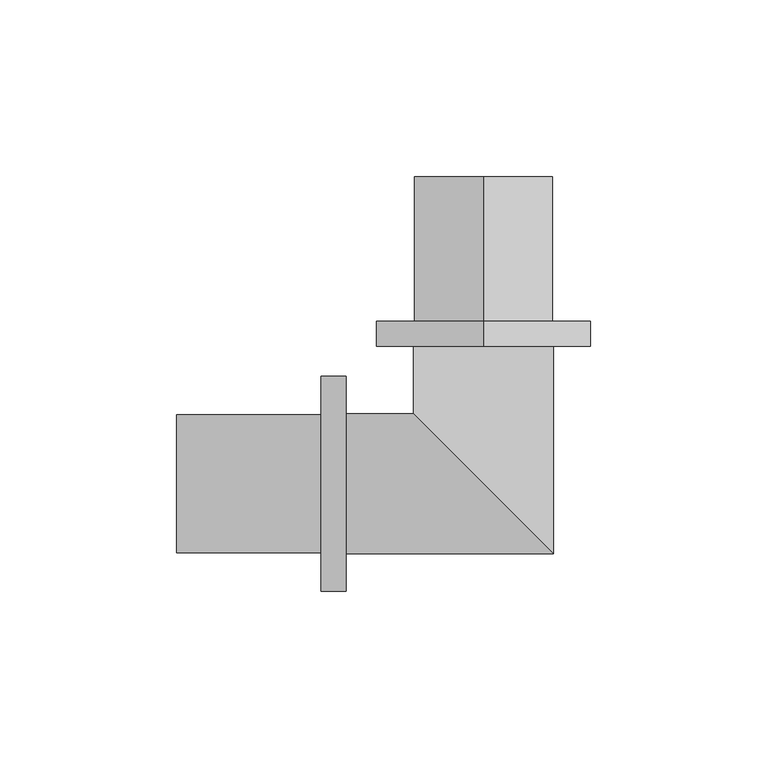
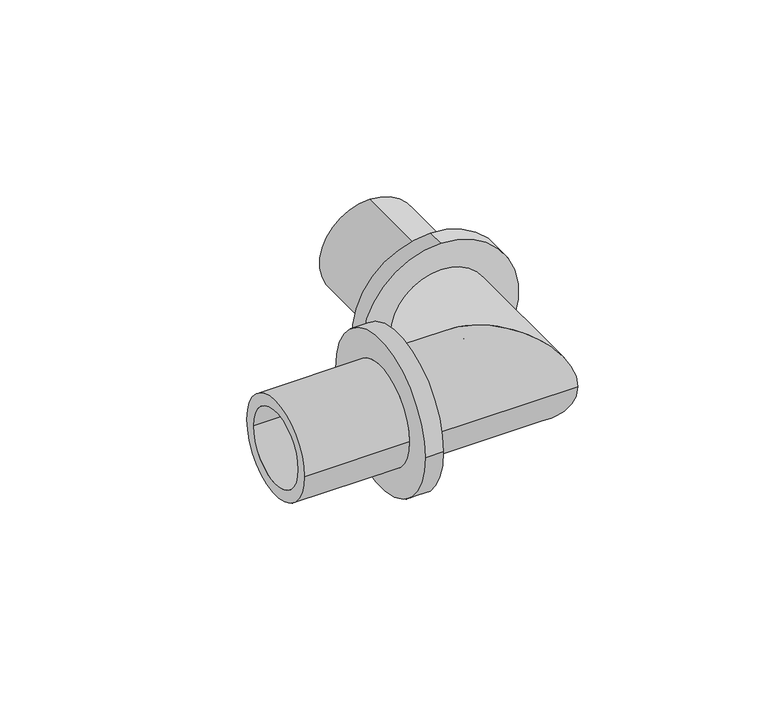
"""IFC4 building model written with IfcOpenShell, lengths in millimetres: pipe fitting geometry, RAUTITAN_Corner_LX : RTI LX C DE."""

from ifc_helpers import new_model, si_unit, frame, origin, place, context, project, spatial, polyline, circle_curve, ellipse_curve, source, transform, mapped, element, save
from ifc_brep_helpers import plane_surface, cylinder_surface, revolved_surface, advanced_brep


def pipe_fitting_91b0a5e7(model_context):
    return source(origin(), model_context, "Body", "AdvancedBrep", [
        advanced_brep(
        [(0.0, 46.0, 30.5), (0.0, 46.0, -30.5), (0.0, 39.0, -30.5), (0.0, 39.0, 30.5), (0.0, 87.0, 19.6), (0.0, 87.0, -19.6), (0.0, 46.0, -19.6), (0.0, 46.0, 19.6), (0.0, 39.0, 15.0), (0.0, 39.0, -15.0), (0.0, 87.0, -15.0), (0.0, 87.0, 15.0)],
        [
            (0, 1, circle_curve(frame((0.0, 46.0, 0.0), z_axis=(0.0, -1.0, 0.0), x_axis=(0.0, 0.0, -1.0)), 30.5)),
            (1, 2),
            (2, 3, circle_curve(frame((0.0, 39.0, 0.0), z_axis=(0.0, 1.0, 0.0), x_axis=(0.0, 0.0, -1.0)), 30.5)),
            (3, 0),
            (4, 5, circle_curve(frame((0.0, 87.0, 0.0), z_axis=(0.0, -1.0, 0.0), x_axis=(0.0, 0.0, -1.0)), 19.6)),
            (5, 6),
            (6, 7, circle_curve(frame((0.0, 46.0, 0.0), z_axis=(0.0, 1.0, 0.0), x_axis=(0.0, 0.0, -1.0)), 19.6)),
            (7, 4),
            (8, 9, circle_curve(frame((0.0, 39.0, 0.0), z_axis=(0.0, -1.0, 0.0), x_axis=(0.0, 0.0, -1.0)), 15.0)),
            (9, 10),
            (10, 11, circle_curve(frame((0.0, 87.0, 0.0), z_axis=(0.0, 1.0, 0.0), x_axis=(0.0, 0.0, -1.0)), 15.0)),
            (11, 8),
            (1, 0, circle_curve(frame((0.0, 46.0, 0.0), z_axis=(0.0, -1.0, 0.0), x_axis=(0.0, 0.0, 1.0)), 30.5)),
            (3, 2, circle_curve(frame((0.0, 39.0, 0.0), z_axis=(0.0, 1.0, 0.0), x_axis=(0.0, 0.0, 1.0)), 30.5)),
            (6, 7, circle_curve(frame((0.0, 46.0, 0.0), z_axis=(0.0, -1.0, 0.0), x_axis=(0.0, 0.0, 1.0)), 19.6)),
            (5, 4, circle_curve(frame((0.0, 87.0, 0.0), z_axis=(0.0, -1.0, 0.0), x_axis=(0.0, 0.0, 1.0)), 19.6)),
            (10, 11, circle_curve(frame((0.0, 87.0, 0.0), z_axis=(0.0, -1.0, 0.0), x_axis=(0.0, 0.0, 1.0)), 15.0)),
            (9, 8, circle_curve(frame((0.0, 39.0, 0.0), z_axis=(0.0, -1.0, 0.0), x_axis=(0.0, 0.0, 1.0)), 15.0)),
        ],
        [
            cylinder_surface(frame((0.0, 39.0, 0.0), z_axis=(0.0, 1.0, 0.0), x_axis=(0.0, 0.0, -1.0)), 30.5),
            cylinder_surface(frame((0.0, 39.0, 0.0), z_axis=(0.0, 1.0, 0.0), x_axis=(0.0, 0.0, -1.0)), 19.6),
            revolved_surface(polyline([(0.0, 87.0, -15.0), (0.0, 39.0, -15.0)]), (0.0, 39.0, 0.0), (0.0, 1.0, 0.0)),
            cylinder_surface(frame((0.0, 39.0, 0.0), z_axis=(0.0, 1.0, 0.0), x_axis=(0.0, 0.0, 1.0)), 30.5),
            plane_surface(frame((0.0, 46.0, 0.0), z_axis=(0.0, 1.0, 0.0), x_axis=(0.0, 0.0, 1.0))),
            cylinder_surface(frame((0.0, 39.0, 0.0), z_axis=(0.0, 1.0, 0.0), x_axis=(0.0, 0.0, 1.0)), 19.6),
            plane_surface(frame((0.0, 87.0, 0.0), z_axis=(0.0, 1.0, 0.0), x_axis=(0.0, 0.0, 1.0))),
            revolved_surface(polyline([(0.0, 87.0, 15.0), (0.0, 39.0, 15.0)]), (0.0, 39.0, 0.0), (0.0, 1.0, 0.0)),
            plane_surface(frame((0.0, 39.0, 0.0), z_axis=(0.0, -1.0, 0.0), x_axis=(0.0, 0.0, 1.0))),
        ],
        [
            (0, [[1, 2, 3, 4]]),
            (1, [[5, 6, 7, 8]]),
            (2, [[9, 10, 11, 12]]),
            (3, [[13, -4, 14, -2]]),
            (4, [[-13, -1], [15, -7]]),
            (5, [[16, -8, -15, -6]]),
            (6, [[-16, -5], [17, -11]]),
            (7, [[18, -12, -17, -10]]),
            (8, [[-14, -3], [-18, -9]]),
        ],
    ),
        advanced_brep(
        [(-46.0, -30.5, 0.0), (-46.0, 30.5, 0.0), (-39.0, 30.5, 0.0), (-39.0, -30.5, 0.0), (-87.0, -19.6, 0.0), (-87.0, 19.6, 0.0), (-46.0, 19.6, 0.0), (-46.0, -19.6, 0.0), (-39.0, -15.0, 0.0), (-39.0, 15.0, 0.0), (-87.0, 15.0, 0.0), (-87.0, -15.0, 0.0)],
        [
            (0, 1, circle_curve(frame((-46.0, 0.0, 0.0), z_axis=(1.0, 0.0, 0.0), x_axis=(0.0, 1.0, 0.0)), 30.5)),
            (1, 2),
            (2, 3, circle_curve(frame((-39.0, 0.0, 0.0), z_axis=(-1.0, 0.0, 0.0), x_axis=(0.0, 1.0, 0.0)), 30.5)),
            (3, 0),
            (4, 5, circle_curve(frame((-87.0, 0.0, 0.0), z_axis=(1.0, 0.0, 0.0), x_axis=(0.0, 1.0, 0.0)), 19.6)),
            (5, 6),
            (6, 7, circle_curve(frame((-46.0, 0.0, 0.0), z_axis=(-1.0, 0.0, 0.0), x_axis=(0.0, 1.0, 0.0)), 19.6)),
            (7, 4),
            (8, 9, circle_curve(frame((-39.0, 0.0, 0.0), z_axis=(1.0, 0.0, 0.0), x_axis=(0.0, 1.0, 0.0)), 15.0)),
            (9, 10),
            (10, 11, circle_curve(frame((-87.0, 0.0, 0.0), z_axis=(-1.0, 0.0, 0.0), x_axis=(0.0, 1.0, 0.0)), 15.0)),
            (11, 8),
            (1, 0, circle_curve(frame((-46.0, 0.0, 0.0), z_axis=(1.0, 0.0, 0.0), x_axis=(0.0, -1.0, 0.0)), 30.5)),
            (3, 2, circle_curve(frame((-39.0, 0.0, 0.0), z_axis=(-1.0, 0.0, 0.0), x_axis=(0.0, -1.0, 0.0)), 30.5)),
            (6, 7, circle_curve(frame((-46.0, 0.0, 0.0), z_axis=(1.0, 0.0, 0.0), x_axis=(0.0, -1.0, 0.0)), 19.6)),
            (5, 4, circle_curve(frame((-87.0, 0.0, 0.0), z_axis=(1.0, 0.0, 0.0), x_axis=(0.0, -1.0, 0.0)), 19.6)),
            (10, 11, circle_curve(frame((-87.0, 0.0, 0.0), z_axis=(1.0, 0.0, 0.0), x_axis=(0.0, -1.0, 0.0)), 15.0)),
            (9, 8, circle_curve(frame((-39.0, 0.0, 0.0), z_axis=(1.0, 0.0, 0.0), x_axis=(0.0, -1.0, 0.0)), 15.0)),
        ],
        [
            cylinder_surface(frame((-39.0, 0.0, 0.0), z_axis=(-1.0, 0.0, 0.0), x_axis=(0.0, 1.0, 0.0)), 30.5),
            cylinder_surface(frame((-39.0, 0.0, 0.0), z_axis=(-1.0, 0.0, 0.0), x_axis=(0.0, 1.0, 0.0)), 19.6),
            revolved_surface(polyline([(-87.0, 15.0, 0.0), (-39.0, 15.0, 0.0)]), (-39.0, 0.0, 0.0), (-1.0, 0.0, 0.0)),
            cylinder_surface(frame((-39.0, 0.0, 0.0), z_axis=(-1.0, 0.0, 0.0), x_axis=(0.0, -1.0, 0.0)), 30.5),
            plane_surface(frame((-46.0, 0.0, 0.0), z_axis=(-1.0, 0.0, 0.0), x_axis=(0.0, -1.0, 0.0))),
            cylinder_surface(frame((-39.0, 0.0, 0.0), z_axis=(-1.0, 0.0, 0.0), x_axis=(0.0, -1.0, 0.0)), 19.6),
            plane_surface(frame((-87.0, 0.0, 0.0), z_axis=(-1.0, 0.0, 0.0), x_axis=(0.0, -1.0, 0.0))),
            revolved_surface(polyline([(-87.0, -15.0, 0.0), (-39.0, -15.0, 0.0)]), (-39.0, 0.0, 0.0), (-1.0, 0.0, 0.0)),
            plane_surface(frame((-39.0, 0.0, 0.0), z_axis=(1.0, 0.0, 0.0), x_axis=(0.0, -1.0, 0.0))),
        ],
        [
            (0, [[1, 2, 3, 4]]),
            (1, [[5, 6, 7, 8]]),
            (2, [[9, 10, 11, 12]]),
            (3, [[13, -4, 14, -2]]),
            (4, [[-13, -1], [15, -7]]),
            (5, [[16, -8, -15, -6]]),
            (6, [[-16, -5], [17, -11]]),
            (7, [[18, -12, -17, -10]]),
            (8, [[-14, -3], [-18, -9]]),
        ],
    ),
        advanced_brep(
        [(-39.0, -19.8, 0.0), (-39.0, 19.8, 0.0), (-39.0, -15.0, 0.0), (-39.0, 15.0, 0.0), (-15.0, 15.0, 0.0), (15.0, -15.0, 0.0), (19.8, 39.0, 0.0), (-19.8, 39.0, 0.0), (15.0, 39.0, 0.0), (-15.0, 39.0, 0.0), (19.8, -19.8, 0.0), (-19.8, 19.8, 0.0)],
        [
            (0, 1, circle_curve(frame((-39.0, 0.0, 0.0), z_axis=(-1.0, 0.0, 0.0), x_axis=(0.0, 1.0, 0.0)), 19.8)),
            (1, 0, circle_curve(frame((-39.0, 0.0, 0.0), z_axis=(-1.0, 0.0, 0.0), x_axis=(0.0, 1.0, 0.0)), 19.8)),
            (2, 3, circle_curve(frame((-39.0, 0.0, 0.0), z_axis=(1.0, 0.0, 0.0), x_axis=(0.0, 1.0, 0.0)), 15.0)),
            (3, 2, circle_curve(frame((-39.0, 0.0, 0.0), z_axis=(1.0, 0.0, 0.0), x_axis=(0.0, 1.0, 0.0)), 15.0)),
            (3, 4),
            (4, 5, ellipse_curve(frame((0.0, 0.0, 0.0), z_axis=(0.707106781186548, 0.7071067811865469, 0.0), x_axis=(0.7071067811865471, -0.7071067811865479, 0.0)), 21.2132034, 15.0)),
            (5, 2),
            (5, 4, ellipse_curve(frame((0.0, 0.0, 0.0), z_axis=(0.707106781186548, 0.7071067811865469, 0.0), x_axis=(0.7071067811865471, -0.7071067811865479, 0.0)), 21.2132034, 15.0)),
            (6, 7, circle_curve(frame((0.0, 39.0, 0.0), z_axis=(0.0, 1.0, 0.0), x_axis=(-1.0, 0.0, 0.0)), 19.8)),
            (7, 6, circle_curve(frame((0.0, 39.0, 0.0), z_axis=(0.0, 1.0, 0.0), x_axis=(-1.0, 0.0, 0.0)), 19.8)),
            (8, 9, circle_curve(frame((0.0, 39.0, 0.0), z_axis=(0.0, -1.0, 0.0), x_axis=(-1.0, 0.0, 0.0)), 15.0)),
            (9, 8, circle_curve(frame((0.0, 39.0, 0.0), z_axis=(0.0, -1.0, 0.0), x_axis=(-1.0, 0.0, 0.0)), 15.0)),
            (4, 9),
            (8, 5),
            (0, 10),
            (10, 11, ellipse_curve(frame((0.0, 0.0, 0.0), z_axis=(-0.707106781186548, -0.7071067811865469, 0.0), x_axis=(-0.7071067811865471, 0.7071067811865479, 0.0)), 28.0014285, 19.8)),
            (11, 1),
            (11, 10, ellipse_curve(frame((0.0, 0.0, 0.0), z_axis=(-0.707106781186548, -0.7071067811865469, 0.0), x_axis=(-0.7071067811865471, 0.7071067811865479, 0.0)), 28.0014285, 19.8)),
            (10, 6),
            (7, 11),
        ],
        [
            plane_surface(frame((-39.0, 0.0, 0.0), z_axis=(-1.0, 0.0, 0.0), x_axis=(0.0, 0.0, 1.0))),
            revolved_surface(polyline([(15.0, 15.0, 0.0), (-39.0, 15.0, 0.0)]), (-39.0, 0.0, 0.0), (1.0, 0.0, 0.0)),
            plane_surface(frame((0.0, 39.0, 0.0), z_axis=(0.0, 1.0, 0.0), x_axis=(0.0, 0.0, 1.0))),
            revolved_surface(polyline([(-15.0, 39.0, 0.0), (-15.0, -15.0, 0.0)]), (0.0, 0.0, 0.0), (0.0, 1.0, 0.0)),
            cylinder_surface(frame((-39.0, 0.0, 0.0), z_axis=(-1.0, 0.0, 0.0), x_axis=(0.0, 1.0, 0.0)), 19.8),
            cylinder_surface(frame((0.0, 0.0, 0.0), z_axis=(0.0, -1.0, 0.0), x_axis=(-1.0, 0.0, 0.0)), 19.8),
        ],
        [
            (0, [[1, 2], [3, 4]]),
            (1, [[-4, 5, 6, 7]]),
            (1, [[-3, -7, 8, -5]]),
            (2, [[9, 10], [11, 12]]),
            (3, [[-6, 13, -11, 14]]),
            (3, [[-8, -14, -12, -13]]),
            (4, [[-1, 15, 16, 17]]),
            (4, [[-2, -17, 18, -15]]),
            (5, [[-16, 19, -10, 20]]),
            (5, [[-18, -20, -9, -19]]),
        ],
    ),
    ])


if __name__ == "__main__":
    model = new_model("IFC4")
    model_context = context("Model", 3, world=origin())
    ifc_project = project(units=[si_unit("LENGTHUNIT", "METRE", prefix="MILLI")], contexts=[model_context])
    site = spatial("IfcSite", under=ifc_project)
    building = spatial("IfcBuilding", under=site)
    placement = place(None, origin())
    pipe_fitting_shape = pipe_fitting_91b0a5e7(model_context)
    element("IfcPipeFitting", 1, ObjectType="RAUTITAN_Corner_LX : RTI LX C DE", at=placement, inside=building, context=model_context, shape_type="MappedRepresentation", body=[
        mapped(pipe_fitting_shape, transform((0.0, 0.0, 0.0), x_axis=(1.0, 0.0, 0.0), y_axis=(0.0, 1.0, 0.0), z_axis=(0.0, 0.0, 1.0))),
    ])
    save(model, "model.ifc")
